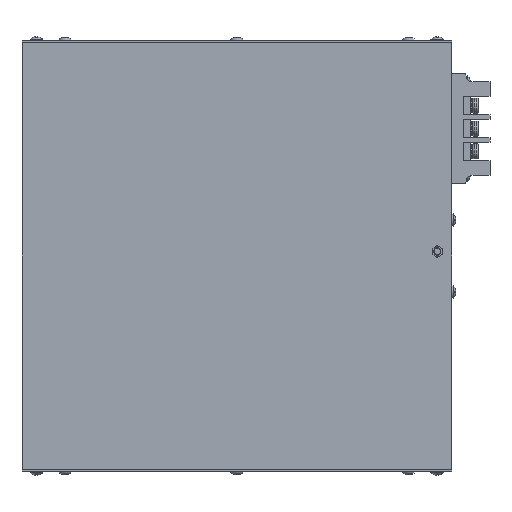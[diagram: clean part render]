
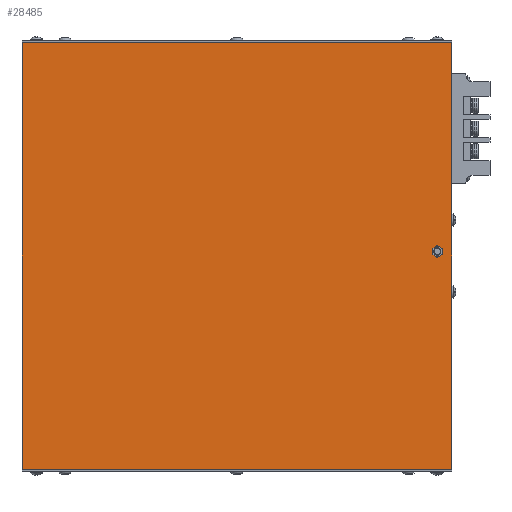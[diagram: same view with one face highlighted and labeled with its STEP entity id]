
A CAD part, front view. The second image highlights one B-rep face of the part: STEP entity #28485.
In plain terms, the highlighted planar face has unit normal (0, -1, 0).
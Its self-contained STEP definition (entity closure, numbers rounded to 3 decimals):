
#1307=FACE_BOUND('',#9511,.T.);
#2033=PLANE('',#30964);
#2823=LINE('',#42363,#4798);
#2827=LINE('',#42372,#4802);
#2830=LINE('',#42380,#4805);
#2833=LINE('',#42388,#4808);
#2836=LINE('',#42396,#4811);
#2839=LINE('',#42404,#4814);
#3682=LINE('',#55143,#5657);
#3712=LINE('',#55763,#5687);
#3972=LINE('',#57703,#5947);
#3973=LINE('',#57704,#5948);
#4798=VECTOR('',#33806,0.394);
#4802=VECTOR('',#33816,0.394);
#4805=VECTOR('',#33825,0.394);
#4808=VECTOR('',#33834,0.394);
#4811=VECTOR('',#33843,0.394);
#4814=VECTOR('',#33852,0.394);
#5657=VECTOR('',#37261,0.394);
#5687=VECTOR('',#37293,0.394);
#5947=VECTOR('',#37793,0.394);
#5948=VECTOR('',#37794,0.394);
#7856=FACE_OUTER_BOUND('',#9510,.T.);
#9510=EDGE_LOOP('',(#25226,#25227,#25228,#25229));
#9511=EDGE_LOOP('',(#25230,#25231,#25232,#25233,#25234,#25235,#25236,#25237,
#25238,#25239,#25240,#25241));
#10089=CIRCLE('',#29547,0.039);
#10090=CIRCLE('',#29550,0.039);
#10091=CIRCLE('',#29553,0.039);
#10092=CIRCLE('',#29556,0.039);
#10093=CIRCLE('',#29559,0.039);
#10094=CIRCLE('',#29562,0.039);
#11747=VERTEX_POINT('',#42360);
#11748=VERTEX_POINT('',#42362);
#11749=VERTEX_POINT('',#42366);
#11750=VERTEX_POINT('',#42370);
#11751=VERTEX_POINT('',#42374);
#11752=VERTEX_POINT('',#42378);
#11753=VERTEX_POINT('',#42382);
#11754=VERTEX_POINT('',#42386);
#11755=VERTEX_POINT('',#42390);
#11756=VERTEX_POINT('',#42394);
#11757=VERTEX_POINT('',#42398);
#11758=VERTEX_POINT('',#42402);
#13079=VERTEX_POINT('',#55140);
#13080=VERTEX_POINT('',#55142);
#13221=VERTEX_POINT('',#55762);
#13433=VERTEX_POINT('',#57702);
#14879=EDGE_CURVE('',#11748,#11747,#2823,.T.);
#14882=EDGE_CURVE('',#11747,#11749,#10089,.T.);
#14884=EDGE_CURVE('',#11749,#11750,#2827,.T.);
#14886=EDGE_CURVE('',#11750,#11751,#10090,.T.);
#14888=EDGE_CURVE('',#11751,#11752,#2830,.T.);
#14890=EDGE_CURVE('',#11752,#11753,#10091,.T.);
#14892=EDGE_CURVE('',#11753,#11754,#2833,.T.);
#14894=EDGE_CURVE('',#11754,#11755,#10092,.T.);
#14896=EDGE_CURVE('',#11755,#11756,#2836,.T.);
#14898=EDGE_CURVE('',#11756,#11757,#10093,.T.);
#14900=EDGE_CURVE('',#11757,#11758,#2839,.T.);
#14901=EDGE_CURVE('',#11758,#11748,#10094,.T.);
#16867=EDGE_CURVE('',#13079,#13080,#3682,.T.);
#17009=EDGE_CURVE('',#13080,#13221,#3712,.T.);
#17421=EDGE_CURVE('',#13433,#13079,#3972,.T.);
#17422=EDGE_CURVE('',#13221,#13433,#3973,.T.);
#25226=ORIENTED_EDGE('',*,*,#17421,.F.);
#25227=ORIENTED_EDGE('',*,*,#17422,.F.);
#25228=ORIENTED_EDGE('',*,*,#17009,.F.);
#25229=ORIENTED_EDGE('',*,*,#16867,.F.);
#25230=ORIENTED_EDGE('',*,*,#14879,.T.);
#25231=ORIENTED_EDGE('',*,*,#14882,.T.);
#25232=ORIENTED_EDGE('',*,*,#14884,.T.);
#25233=ORIENTED_EDGE('',*,*,#14886,.T.);
#25234=ORIENTED_EDGE('',*,*,#14888,.T.);
#25235=ORIENTED_EDGE('',*,*,#14890,.T.);
#25236=ORIENTED_EDGE('',*,*,#14892,.T.);
#25237=ORIENTED_EDGE('',*,*,#14894,.T.);
#25238=ORIENTED_EDGE('',*,*,#14896,.T.);
#25239=ORIENTED_EDGE('',*,*,#14898,.T.);
#25240=ORIENTED_EDGE('',*,*,#14900,.T.);
#25241=ORIENTED_EDGE('',*,*,#14901,.T.);
#28485=ADVANCED_FACE('',(#7856,#1307),#2033,.T.);
#29547=AXIS2_PLACEMENT_3D('',#42368,#33811,#33812);
#29550=AXIS2_PLACEMENT_3D('',#42376,#33820,#33821);
#29553=AXIS2_PLACEMENT_3D('',#42384,#33829,#33830);
#29556=AXIS2_PLACEMENT_3D('',#42392,#33838,#33839);
#29559=AXIS2_PLACEMENT_3D('',#42400,#33847,#33848);
#29562=AXIS2_PLACEMENT_3D('',#42406,#33855,#33856);
#30964=AXIS2_PLACEMENT_3D('',#57701,#37791,#37792);
#33806=DIRECTION('',(-0.004,0.,1.));
#33811=DIRECTION('center_axis',(0.,1.,0.));
#33812=DIRECTION('ref_axis',(-0.868,0.,0.497));
#33816=DIRECTION('',(0.864,0.,0.503));
#33820=DIRECTION('center_axis',(0.,1.,0.));
#33821=DIRECTION('ref_axis',(-0.004,0.,
1.));
#33825=DIRECTION('',(0.868,0.,-0.497));
#33829=DIRECTION('center_axis',(0.,1.,0.));
#33830=DIRECTION('ref_axis',(0.864,0.,0.503));
#33834=DIRECTION('',(0.004,0.,-1.));
#33838=DIRECTION('center_axis',(0.,1.,0.));
#33839=DIRECTION('ref_axis',(0.868,0.,-0.497));
#33843=DIRECTION('',(-0.864,0.,-0.503));
#33847=DIRECTION('center_axis',(0.,1.,0.));
#33848=DIRECTION('ref_axis',(0.004,0.,
-1.));
#33852=DIRECTION('',(-0.868,0.,0.497));
#33855=DIRECTION('center_axis',(0.,1.,0.));
#33856=DIRECTION('ref_axis',(-0.864,0.,-0.503));
#37261=DIRECTION('',(0.,0.,1.));
#37293=DIRECTION('',(1.,0.,0.));
#37791=DIRECTION('center_axis',(0.,-1.,0.));
#37792=DIRECTION('ref_axis',(0.,0.,-1.));
#37793=DIRECTION('',(-1.,0.,0.));
#37794=DIRECTION('',(0.,0.,-1.));
#42360=CARTESIAN_POINT('',(-0.488,0.,-5.674));
#42362=CARTESIAN_POINT('',(-0.488,0.,-5.792));
#42363=CARTESIAN_POINT('',(-0.498,0.,-2.908));
#42366=CARTESIAN_POINT('',(-0.469,0.,-5.64));
#42368=CARTESIAN_POINT('Origin',(-0.449,0.,
-5.674));
#42370=CARTESIAN_POINT('',(-0.367,0.,-5.58));
#42372=CARTESIAN_POINT('',(0.922,0.,-4.83));
#42374=CARTESIAN_POINT('',(-0.327,0.,-5.58));
#42376=CARTESIAN_POINT('Origin',(-0.347,0.,
-5.614));
#42378=CARTESIAN_POINT('',(-0.225,0.,-5.639));
#42380=CARTESIAN_POINT('',(-1.417,0.,-4.956));
#42382=CARTESIAN_POINT('',(-0.205,0.,-5.673));
#42384=CARTESIAN_POINT('Origin',(-0.244,0.,
-5.673));
#42386=CARTESIAN_POINT('',(-0.205,0.,-5.791));
#42388=CARTESIAN_POINT('',(-0.215,0.,-2.825));
#42390=CARTESIAN_POINT('',(-0.224,0.,-5.825));
#42392=CARTESIAN_POINT('Origin',(-0.244,0.,
-5.791));
#42394=CARTESIAN_POINT('',(-0.326,0.,-5.885));
#42396=CARTESIAN_POINT('',(1.136,0.,-5.034));
#42398=CARTESIAN_POINT('',(-0.366,0.,-5.885));
#42400=CARTESIAN_POINT('Origin',(-0.346,0.,
-5.85));
#42402=CARTESIAN_POINT('',(-0.468,0.,-5.826));
#42404=CARTESIAN_POINT('',(-1.487,0.,-5.243));
#42406=CARTESIAN_POINT('Origin',(-0.449,0.,
-5.792));
#55140=CARTESIAN_POINT('',(-11.764,0.,-11.717));
#55142=CARTESIAN_POINT('',(-11.764,0.,0.));
#55143=CARTESIAN_POINT('',(-11.764,0.,-11.717));
#55762=CARTESIAN_POINT('',(0.047,0.,0.));
#55763=CARTESIAN_POINT('',(0.,0.,0.));
#57701=CARTESIAN_POINT('Origin',(0.,0.,0.));
#57702=CARTESIAN_POINT('',(0.047,0.,-11.717));
#57703=CARTESIAN_POINT('',(0.047,0.,-11.717));
#57704=CARTESIAN_POINT('',(0.047,0.,0.));
